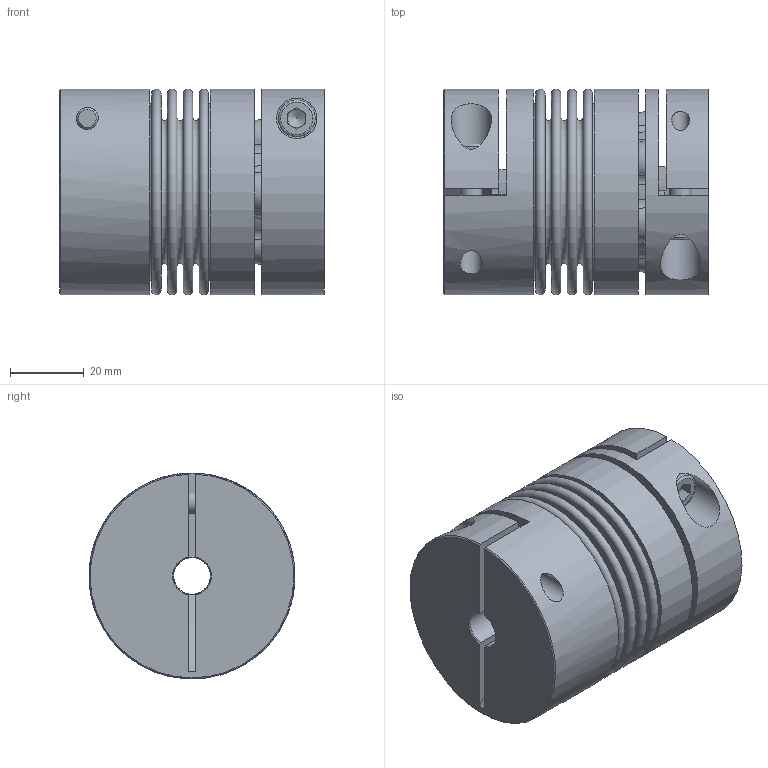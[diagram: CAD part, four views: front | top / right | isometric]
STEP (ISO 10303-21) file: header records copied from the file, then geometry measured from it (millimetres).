
FILE_DESCRIPTION( ( 'Unknown' ), '1' );
FILE_NAME( 'C:/Users/skarpstein/Desktop/KB4P/KB4P/KB4P-30-73.stp', 'Unknown', ( 'Unknown' ), ( 'Unknown' ), 'PSStep 16.0.42', 'Unknown', ' ' );
FILE_SCHEMA( ( 'AUTOMOTIVE_DESIGN { 1 0 10303 214 1 1 1 1 }' ) );
Length unit declared in the file: millimetre
Products named in the file (6): Assem1; KN30_Standard_1; Socket Head Cap Screw_DIN_DIN 912 M6 x 20 --- 20N_2; Balgaufnahme KB4P-30; Stecknabe KB4P-30; BK30_Standard_1
Assembly tree (6 placements, depth 2):
  Assem1
    KN30_Standard_1
    Socket Head Cap Screw_DIN_DIN 912 M6 x 20 --- 20N_2  x2
    Balgaufnahme KB4P-30
    Stecknabe KB4P-30
    BK30_Standard_1
Bounding box: 71.95 x 56 x 56 mm (x, y, z)
Volume: 126604 mm3; surface area: 59700.9 mm2
Topology: 6 solids, 6 shells, 172 faces, 404 edges, 263 vertices
Faces by surface type: plane 71, cone 55, cylinder 26, torus 20
Full cylindrical faces by diameter (mm): 4.917 x1, 6 x3, 6.4 x2, 10 x4, 11 x2, 46.5 x2, 47.3 x2, 56 x3
Entity records: 5776 total; most frequent: CARTESIAN_POINT 1004, DIRECTION 796, ORIENTED_EDGE 618, AXIS2_PLACEMENT_3D 344, EDGE_CURVE 309, VERTEX_POINT 234, EDGE_LOOP 220, CIRCLE 188
